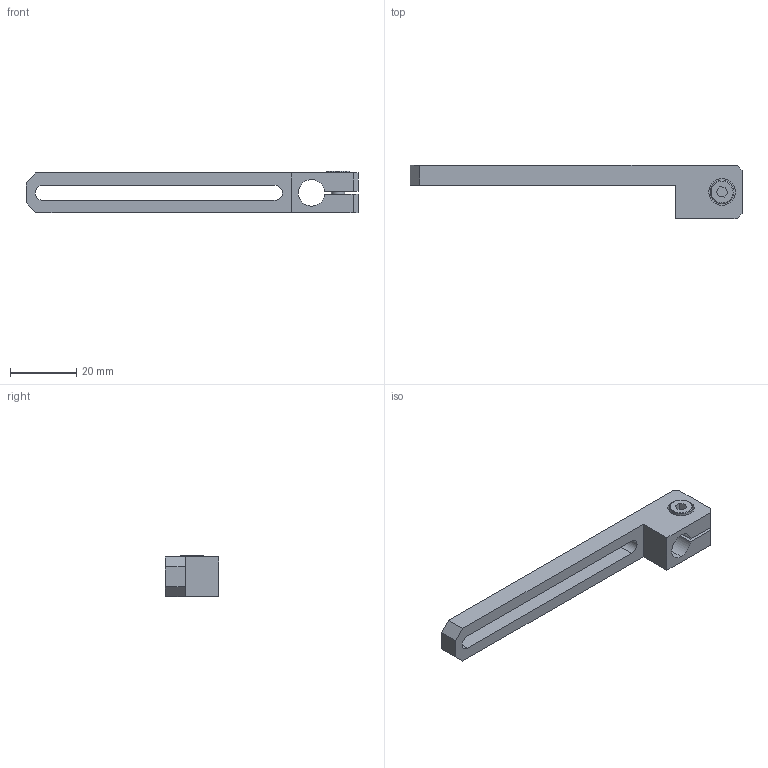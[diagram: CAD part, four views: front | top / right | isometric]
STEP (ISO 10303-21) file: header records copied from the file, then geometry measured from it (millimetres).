
FILE_DESCRIPTION (( 'STEP AP214' ), '1' );
FILE_NAME ('SCF4-0870W16.STEP', '2019-11-11T01:04:23', ( '微软用户' ), ( '微软中国' ), 'SwSTEP 2.0', 'SolidWorks 2016', '' );
FILE_SCHEMA (( 'AUTOMOTIVE_DESIGN' ));
Length unit declared in the file: millimetre
Products named in the file (1): SCF4-0870W16
Bounding box: 100 x 16 x 12.5 mm (x, y, z)
Volume: 6498.9 mm3; surface area: 5649.6 mm2
Topology: 3 solids, 3 shells, 245 faces, 702 edges, 464 vertices
Faces by surface type: plane 222, cylinder 19, cone 2, bspline 2
Entity records: 10912 total; most frequent: CARTESIAN_POINT 1536, DIRECTION 1410, ORIENTED_EDGE 1404, EDGE_CURVE 702, LINE 474, VECTOR 474, AXIS2_PLACEMENT_3D 468, VERTEX_POINT 464
